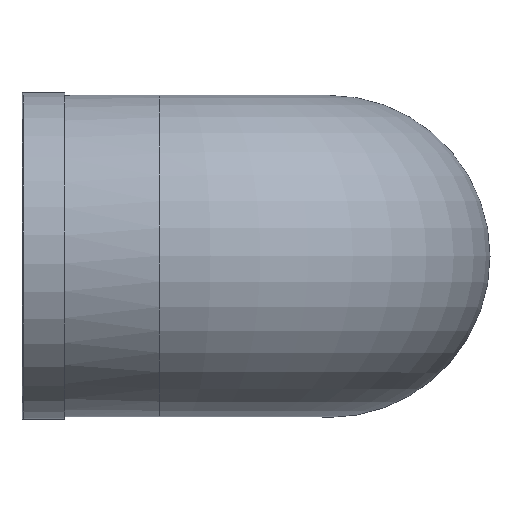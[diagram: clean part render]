
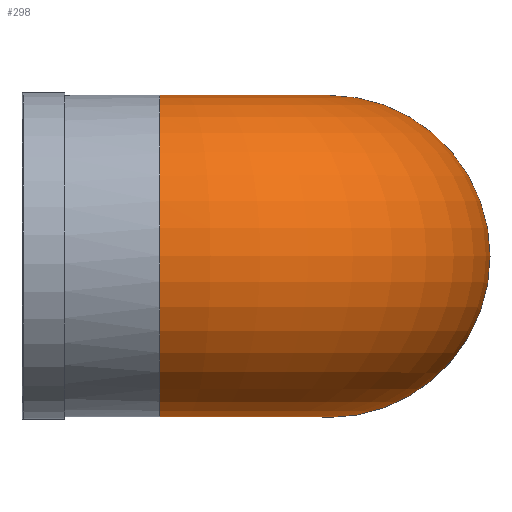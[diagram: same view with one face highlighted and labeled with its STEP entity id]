
A CAD part, top view. The second image highlights one B-rep face of the part: STEP entity #298.
In plain terms, the highlighted toroidal (fillet/blend) face has major radius 39.5 mm and minor radius 37.5 mm.
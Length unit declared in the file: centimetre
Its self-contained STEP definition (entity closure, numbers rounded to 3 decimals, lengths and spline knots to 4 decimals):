
#38=TOROIDAL_SURFACE('',#331,3.95,3.75);
#57=FACE_BOUND('',#111,.T.);
#78=FACE_OUTER_BOUND('',#110,.T.);
#110=EDGE_LOOP('',(#241));
#111=EDGE_LOOP('',(#242));
#132=CIRCLE('',#330,3.75);
#133=CIRCLE('',#332,3.75);
#157=VERTEX_POINT('',#4590);
#158=VERTEX_POINT('',#4593);
#188=EDGE_CURVE('',#157,#157,#132,.T.);
#189=EDGE_CURVE('',#158,#158,#133,.T.);
#241=ORIENTED_EDGE('',*,*,#188,.F.);
#242=ORIENTED_EDGE('',*,*,#189,.T.);
#298=ADVANCED_FACE('',(#78,#57),#38,.T.);
#330=AXIS2_PLACEMENT_3D('',#4591,#394,#395);
#331=AXIS2_PLACEMENT_3D('',#4592,#396,#397);
#332=AXIS2_PLACEMENT_3D('',#4594,#398,#399);
#394=DIRECTION('center_axis',(-1.,0.,0.));
#395=DIRECTION('ref_axis',(0.,0.,-1.));
#396=DIRECTION('center_axis',(0.,-1.,0.));
#397=DIRECTION('ref_axis',(0.,0.,-1.));
#398=DIRECTION('center_axis',(0.,0.,1.));
#399=DIRECTION('ref_axis',(-1.,0.,0.));
#4590=CARTESIAN_POINT('',(-3.3578,0.,9.125));
#4591=CARTESIAN_POINT('Origin',(-3.3578,0.,5.375));
#4592=CARTESIAN_POINT('Origin',(-3.3578,0.,1.425));
#4593=CARTESIAN_POINT('',(4.3422,0.,1.425));
#4594=CARTESIAN_POINT('Origin',(0.5922,0.,1.425));
